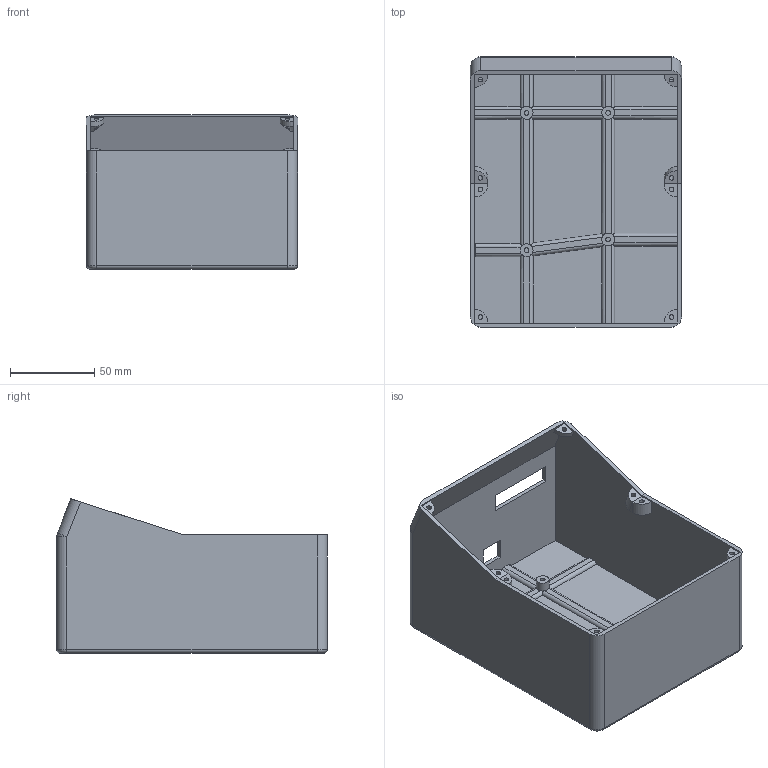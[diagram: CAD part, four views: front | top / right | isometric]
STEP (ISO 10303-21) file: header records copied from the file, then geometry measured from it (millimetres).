
FILE_DESCRIPTION(/* description */ (''),/* implementation_level */ '2;1');
FILE_NAME(/* name */ 'Z:\3D Drucker\Thomas\Spritzenpumpe\Pumpe_Case2.stp',/* time_stamp */ '2018-09-27T12:42:37+02:00',/* author */ ('Holm'),/* organization */ (''),/* preprocessor_version */ 'ST-DEVELOPER v16.13',/* originating_system */ 'Autodesk Inventor 2018',/* authorisation */ '');
FILE_SCHEMA (('AUTOMOTIVE_DESIGN { 1 0 10303 214 3 1 1 }'));
Length unit declared in the file: millimetre
Products named in the file (1): Pumpe_Case2
Bounding box: 125 x 160 x 91.26 mm (x, y, z)
Volume: 124732 mm3; surface area: 127204.4 mm2
Topology: 1 solids, 1 shells, 143 faces, 406 edges, 294 vertices
Faces by surface type: plane 71, cylinder 61, torus 4, cone 4, sphere 2, bspline 1
Full cylindrical faces by diameter (mm): 2.8 x12, 7.6 x4, 11.3 x1, 12.3 x1
Entity records: 4766 total; most frequent: CARTESIAN_POINT 1107, DIRECTION 744, ORIENTED_EDGE 710, EDGE_CURVE 355, AXIS2_PLACEMENT_3D 274, VERTEX_POINT 240, LINE 196, VECTOR 196
